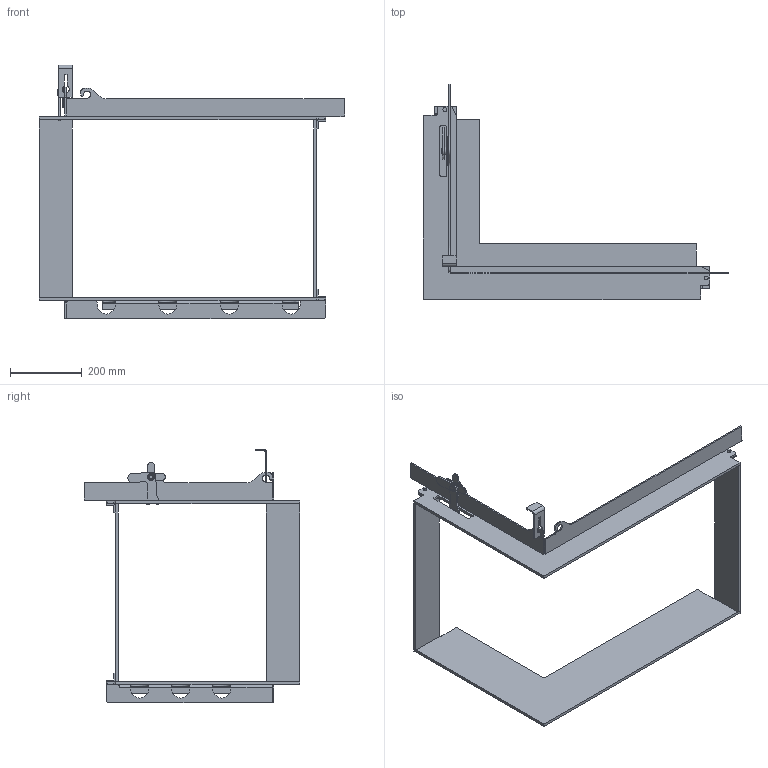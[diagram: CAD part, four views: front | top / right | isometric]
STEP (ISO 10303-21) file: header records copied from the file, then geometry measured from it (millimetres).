
FILE_DESCRIPTION(/* description */ (''),/* implementation_level */ '2;1');
FILE_NAME(/* name */ 'C:\Users\jku\Desktop\Export\Links angeschraubt.stp',/* time_stamp */ '2019-10-16T16:47:28+02:00',/* author */ ('JKU'),/* organization */ (''),/* preprocessor_version */ 'ST-DEVELOPER v17.2',/* originating_system */ 'Autodesk Inventor 2019',/* authorisation */ '');
FILE_SCHEMA (('AUTOMOTIVE_DESIGN { 1 0 10303 214 3 1 1 }'));
Length unit declared in the file: millimetre
Products named in the file (1): 2019-03179
Bounding box: 854.9 x 602.5 x 709 mm (x, y, z)
Volume: 3953393.1 mm3; surface area: 1315046.1 mm2
Topology: 21 solids, 21 shells, 498 faces, 1310 edges, 840 vertices
Faces by surface type: plane 271, cylinder 211, bspline 12, cone 4
Full cylindrical faces by diameter (mm): 10 x1, 10.21 x2, 16 x1, 20 x2, 25 x2
Entity records: 15695 total; most frequent: CARTESIAN_POINT 2901, DIRECTION 2690, ORIENTED_EDGE 2620, EDGE_CURVE 1310, AXIS2_PLACEMENT_3D 917, LINE 856, VECTOR 856, VERTEX_POINT 840
